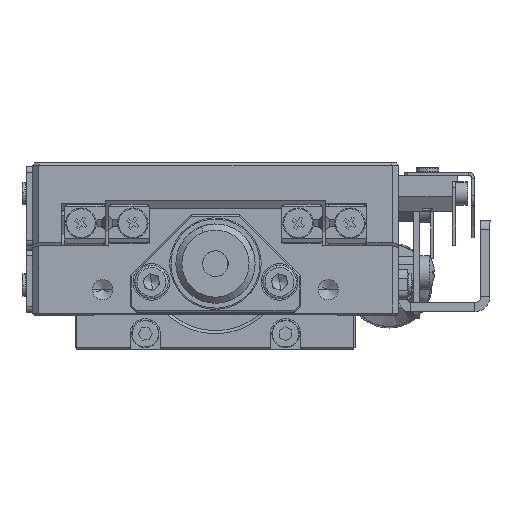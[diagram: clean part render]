
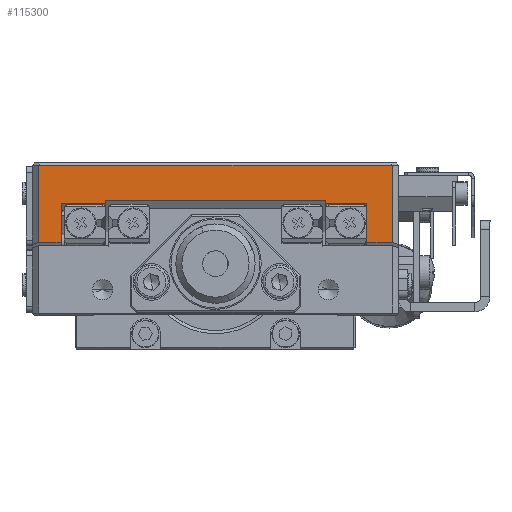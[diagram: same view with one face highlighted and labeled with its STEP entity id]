
A CAD part, left-side view. The second image highlights one B-rep face of the part: STEP entity #115300.
In plain terms, the highlighted planar face has unit normal (-1, 0, 0).
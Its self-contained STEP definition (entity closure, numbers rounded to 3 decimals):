
#92 = ORIENTED_EDGE ( 'NONE', *, *, #51761, .T. ) ;
#362 = VECTOR ( 'NONE', #34954, 1000. ) ;
#5145 = CARTESIAN_POINT ( 'NONE',  ( -30., 61.8, -16.5 ) ) ;
#7718 = EDGE_CURVE ( 'NONE', #112930, #17386, #100849, .T. ) ;
#9811 = EDGE_LOOP ( 'NONE', ( #109217, #59587, #92, #70435, #24145, #37736, #110268, #129140, #24305, #37976, #137820, #45486 ) ) ;
#14795 = EDGE_CURVE ( 'NONE', #132579, #115195, #34353, .T. ) ;
#17386 = VERTEX_POINT ( 'NONE', #49363 ) ;
#18555 = CARTESIAN_POINT ( 'NONE',  ( -30., 11.7, -10.5 ) ) ;
#19460 = VERTEX_POINT ( 'NONE', #51154 ) ;
#21324 = CARTESIAN_POINT ( 'NONE',  ( -30., 66.5, -11.528 ) ) ;
#24112 = LINE ( 'NONE', #47022, #35095 ) ;
#24145 = ORIENTED_EDGE ( 'NONE', *, *, #73548, .F. ) ;
#24305 = ORIENTED_EDGE ( 'NONE', *, *, #107332, .F. ) ;
#25347 = CARTESIAN_POINT ( 'NONE',  ( -30., 7.5, -11.528 ) ) ;
#26822 = AXIS2_PLACEMENT_3D ( 'NONE', #111267, #33927, #56102 ) ;
#29305 = CARTESIAN_POINT ( 'NONE',  ( -30., 7.5, -38.487 ) ) ;
#30507 = EDGE_CURVE ( 'NONE', #50277, #136613, #85110, .T. ) ;
#33927 = DIRECTION ( 'NONE',  ( -1., 0., 0. ) ) ;
#34353 = LINE ( 'NONE', #47922, #129700 ) ;
#34954 = DIRECTION ( 'NONE',  ( 0., 1., 0. ) ) ;
#35029 = CARTESIAN_POINT ( 'NONE',  ( -30., 7.5, 1.1 ) ) ;
#35095 = VECTOR ( 'NONE', #134450, 1000. ) ;
#35163 = VECTOR ( 'NONE', #138913, 1000. ) ;
#35718 = DIRECTION ( 'NONE',  ( 0., 0., -1. ) ) ;
#36384 = DIRECTION ( 'NONE',  ( 0., 1., 0. ) ) ;
#37736 = ORIENTED_EDGE ( 'NONE', *, *, #95642, .F. ) ;
#37976 = ORIENTED_EDGE ( 'NONE', *, *, #73716, .F. ) ;
#39799 = CARTESIAN_POINT ( 'NONE',  ( -30., 61.8, -5.164 ) ) ;
#40396 = CARTESIAN_POINT ( 'NONE',  ( -30., 11.7, -11.528 ) ) ;
#42470 = EDGE_CURVE ( 'NONE', #17386, #86557, #50053, .T. ) ;
#45486 = ORIENTED_EDGE ( 'NONE', *, *, #14795, .F. ) ;
#47022 = CARTESIAN_POINT ( 'NONE',  ( -30., 66.5, -5.164 ) ) ;
#47892 = VERTEX_POINT ( 'NONE', #35029 ) ;
#47922 = CARTESIAN_POINT ( 'NONE',  ( -30., 66.5, -11.528 ) ) ;
#49363 = CARTESIAN_POINT ( 'NONE',  ( -30., 54.55, -4.631 ) ) ;
#50053 = LINE ( 'NONE', #137469, #55859 ) ;
#50277 = VERTEX_POINT ( 'NONE', #73615 ) ;
#51154 = CARTESIAN_POINT ( 'NONE',  ( -30., 11.7, -5.164 ) ) ;
#51761 = EDGE_CURVE ( 'NONE', #100514, #136613, #123869, .T. ) ;
#54765 = CARTESIAN_POINT ( 'NONE',  ( -30., 65.5, 1.1 ) ) ;
#55707 = CARTESIAN_POINT ( 'NONE',  ( -30., 6.5, 1.1 ) ) ;
#55859 = VECTOR ( 'NONE', #126749, 1000. ) ;
#56102 = DIRECTION ( 'NONE',  ( 0., 1., 0. ) ) ;
#59587 = ORIENTED_EDGE ( 'NONE', *, *, #90263, .T. ) ;
#64118 = EDGE_CURVE ( 'NONE', #132579, #47892, #96574, .T. ) ;
#64779 = VECTOR ( 'NONE', #93257, 1000. ) ;
#66832 = LINE ( 'NONE', #86175, #85757 ) ;
#67432 = VECTOR ( 'NONE', #36384, 1000. ) ;
#70435 = ORIENTED_EDGE ( 'NONE', *, *, #30507, .F. ) ;
#73548 = EDGE_CURVE ( 'NONE', #74957, #50277, #104703, .T. ) ;
#73615 = CARTESIAN_POINT ( 'NONE',  ( -30., 61.8, -11.528 ) ) ;
#73716 = EDGE_CURVE ( 'NONE', #19460, #109785, #24112, .T. ) ;
#74957 = VERTEX_POINT ( 'NONE', #39799 ) ;
#77608 = PLANE ( 'NONE',  #26822 ) ;
#79350 = CARTESIAN_POINT ( 'NONE',  ( -30., 66.5, -4.631 ) ) ;
#79453 = CARTESIAN_POINT ( 'NONE',  ( -30., 54.55, -5.164 ) ) ;
#83687 = VECTOR ( 'NONE', #138873, 1000. ) ;
#84693 = LINE ( 'NONE', #128437, #97593 ) ;
#85110 = LINE ( 'NONE', #21324, #83687 ) ;
#85757 = VECTOR ( 'NONE', #98365, 1000. ) ;
#86175 = CARTESIAN_POINT ( 'NONE',  ( -30., 18.45, -10. ) ) ;
#86557 = VERTEX_POINT ( 'NONE', #79453 ) ;
#86786 = DIRECTION ( 'NONE',  ( 0., 1., 0. ) ) ;
#90263 = EDGE_CURVE ( 'NONE', #47892, #100514, #100124, .T. ) ;
#92469 = EDGE_CURVE ( 'NONE', #115195, #19460, #105961, .T. ) ;
#93257 = DIRECTION ( 'NONE',  ( 0., 0., -1. ) ) ;
#95642 = EDGE_CURVE ( 'NONE', #86557, #74957, #84693, .T. ) ;
#96574 = LINE ( 'NONE', #29305, #120827 ) ;
#97593 = VECTOR ( 'NONE', #86786, 1000. ) ;
#98365 = DIRECTION ( 'NONE',  ( 0., 0., 1. ) ) ;
#100124 = LINE ( 'NONE', #55707, #362 ) ;
#100514 = VERTEX_POINT ( 'NONE', #54765 ) ;
#100849 = LINE ( 'NONE', #79350, #67432 ) ;
#104703 = LINE ( 'NONE', #5145, #64779 ) ;
#105938 = DIRECTION ( 'NONE',  ( 0., 0., 1. ) ) ;
#105961 = LINE ( 'NONE', #18555, #35163 ) ;
#107332 = EDGE_CURVE ( 'NONE', #109785, #112930, #66832, .T. ) ;
#109217 = ORIENTED_EDGE ( 'NONE', *, *, #64118, .T. ) ;
#109785 = VERTEX_POINT ( 'NONE', #130494 ) ;
#110268 = ORIENTED_EDGE ( 'NONE', *, *, #42470, .F. ) ;
#111267 = CARTESIAN_POINT ( 'NONE',  ( -30., 6.5, -38.487 ) ) ;
#112004 = FACE_OUTER_BOUND ( 'NONE', #9811, .T. ) ;
#112930 = VERTEX_POINT ( 'NONE', #127672 ) ;
#115195 = VERTEX_POINT ( 'NONE', #40396 ) ;
#115300 = ADVANCED_FACE ( 'NONE', ( #112004 ), #77608, .T. ) ;
#120239 = CARTESIAN_POINT ( 'NONE',  ( -30., 65.5, -11.528 ) ) ;
#120827 = VECTOR ( 'NONE', #105938, 1000. ) ;
#121761 = DIRECTION ( 'NONE',  ( 0., 1., 0. ) ) ;
#123869 = LINE ( 'NONE', #124562, #140541 ) ;
#124562 = CARTESIAN_POINT ( 'NONE',  ( -30., 65.5, -38.487 ) ) ;
#126749 = DIRECTION ( 'NONE',  ( 0., 0., -1. ) ) ;
#127672 = CARTESIAN_POINT ( 'NONE',  ( -30., 18.45, -4.631 ) ) ;
#128437 = CARTESIAN_POINT ( 'NONE',  ( -30., 66.5, -5.164 ) ) ;
#129140 = ORIENTED_EDGE ( 'NONE', *, *, #7718, .F. ) ;
#129700 = VECTOR ( 'NONE', #121761, 1000. ) ;
#130494 = CARTESIAN_POINT ( 'NONE',  ( -30., 18.45, -5.164 ) ) ;
#132579 = VERTEX_POINT ( 'NONE', #25347 ) ;
#134450 = DIRECTION ( 'NONE',  ( 0., 1., 0. ) ) ;
#136613 = VERTEX_POINT ( 'NONE', #120239 ) ;
#137469 = CARTESIAN_POINT ( 'NONE',  ( -30., 54.55, -10.5 ) ) ;
#137820 = ORIENTED_EDGE ( 'NONE', *, *, #92469, .F. ) ;
#138873 = DIRECTION ( 'NONE',  ( 0., 1., 0. ) ) ;
#138913 = DIRECTION ( 'NONE',  ( 0., 0., 1. ) ) ;
#140541 = VECTOR ( 'NONE', #35718, 1000. ) ;
